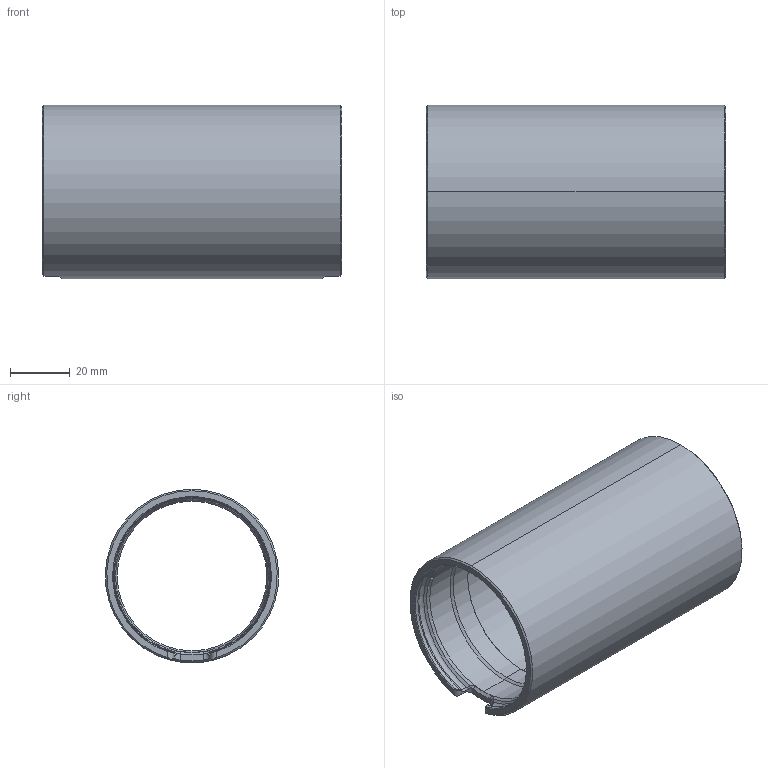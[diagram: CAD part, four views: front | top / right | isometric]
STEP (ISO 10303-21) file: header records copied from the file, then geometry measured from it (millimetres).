
FILE_DESCRIPTION (( 'STEP AP214' ), '1' );
FILE_NAME ('BR-100534-100_RevB.STEP', '2024-09-16T22:39:59', ( '' ), ( '' ), 'SwSTEP 2.0', 'SolidWorks 2024', '' );
FILE_SCHEMA (( 'AUTOMOTIVE_DESIGN' ));
Length unit declared in the file: millimetre
Products named in the file (1): BR-100534-100_RevB
Bounding box: 100 x 57.96 x 58 mm (x, y, z)
Volume: 56189.2 mm3; surface area: 35781.3 mm2
Topology: 1 solids, 1 shells, 112 faces, 274 edges, 166 vertices
Faces by surface type: bspline 32, cylinder 28, cone 24, plane 16, torus 12
Entity records: 7010 total; most frequent: CARTESIAN_POINT 4660, ORIENTED_EDGE 548, DIRECTION 390, EDGE_CURVE 274, AXIS2_PLACEMENT_3D 167, VERTEX_POINT 166, B_SPLINE_CURVE_WITH_KNOTS 128, EDGE_LOOP 116
